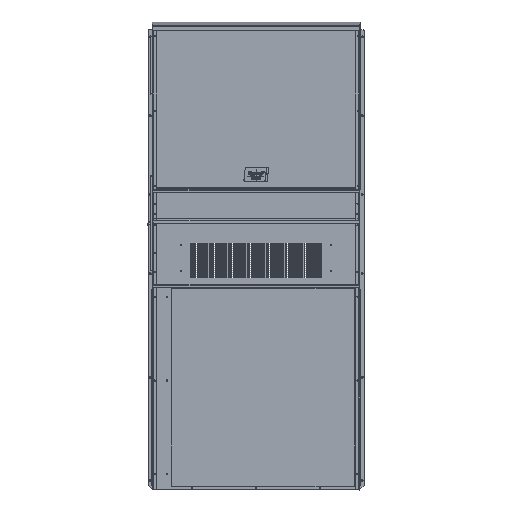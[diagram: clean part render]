
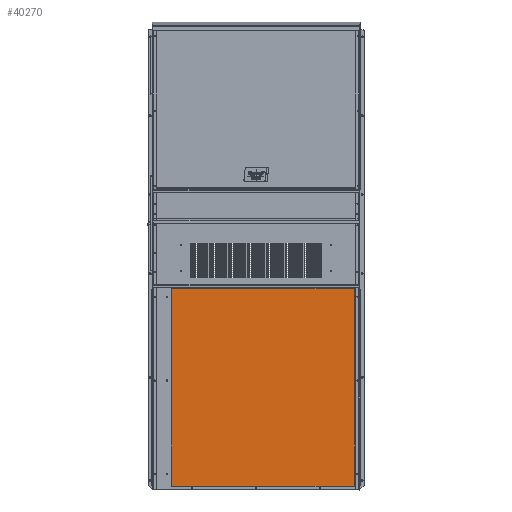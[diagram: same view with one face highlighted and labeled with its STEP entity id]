
A CAD part, top view. The second image highlights one B-rep face of the part: STEP entity #40270.
In plain terms, the highlighted planar face has unit normal (0, 0, 1).
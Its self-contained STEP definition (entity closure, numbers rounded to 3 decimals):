
#3091 = ORIENTED_EDGE ( 'NONE', *, *, #54223, .T. ) ;
#10067 = DIRECTION ( 'NONE',  ( 0., 0., -1. ) ) ;
#10626 = DIRECTION ( 'NONE',  ( 0., 1., 0. ) ) ;
#21725 = VERTEX_POINT ( 'NONE', #53325 ) ;
#25162 = AXIS2_PLACEMENT_3D ( 'NONE', #35400, #10067, #69634 ) ;
#26449 = CARTESIAN_POINT ( 'NONE',  ( 3.696, 40.075, 0.109 ) ) ;
#27026 = CARTESIAN_POINT ( 'NONE',  ( 40.769, 40.075, 0.109 ) ) ;
#30293 = VECTOR ( 'NONE', #10626, 39.37 ) ;
#30603 = ORIENTED_EDGE ( 'NONE', *, *, #79760, .T. ) ;
#31664 = ORIENTED_EDGE ( 'NONE', *, *, #93111, .T. ) ;
#35400 = CARTESIAN_POINT ( 'NONE',  ( -0.425, 40.631, 0.109 ) ) ;
#40270 = ADVANCED_FACE ( 'NONE', ( #91688 ), #61103, .F. ) ;
#45760 = DIRECTION ( 'NONE',  ( 1., 0., 0. ) ) ;
#47476 = LINE ( 'NONE', #97365, #92596 ) ;
#50455 = CARTESIAN_POINT ( 'NONE',  ( 3.696, 40.075, 0.109 ) ) ;
#52106 = CARTESIAN_POINT ( 'NONE',  ( 40.769, 40.075, 0.109 ) ) ;
#53325 = CARTESIAN_POINT ( 'NONE',  ( 3.696, -0.068, 0.109 ) ) ;
#54223 = EDGE_CURVE ( 'NONE', #84287, #95265, #47476, .T. ) ;
#55263 = DIRECTION ( 'NONE',  ( -1., 0., 0. ) ) ;
#59039 = DIRECTION ( 'NONE',  ( 0., -1., 0. ) ) ;
#61103 = PLANE ( 'NONE',  #25162 ) ;
#61111 = EDGE_LOOP ( 'NONE', ( #102130, #3091, #30603, #31664 ) ) ;
#65632 = EDGE_CURVE ( 'NONE', #84875, #84287, #75578, .T. ) ;
#67010 = VECTOR ( 'NONE', #45760, 39.37 ) ;
#69634 = DIRECTION ( 'NONE',  ( -1., 0., 0. ) ) ;
#69658 = LINE ( 'NONE', #104904, #67010 ) ;
#75578 = LINE ( 'NONE', #27026, #30293 ) ;
#79760 = EDGE_CURVE ( 'NONE', #95265, #21725, #108071, .T. ) ;
#84287 = VERTEX_POINT ( 'NONE', #52106 ) ;
#84875 = VERTEX_POINT ( 'NONE', #102588 ) ;
#85786 = VECTOR ( 'NONE', #59039, 39.37 ) ;
#91688 = FACE_OUTER_BOUND ( 'NONE', #61111, .T. ) ;
#92596 = VECTOR ( 'NONE', #55263, 39.37 ) ;
#93111 = EDGE_CURVE ( 'NONE', #21725, #84875, #69658, .T. ) ;
#95265 = VERTEX_POINT ( 'NONE', #26449 ) ;
#97365 = CARTESIAN_POINT ( 'NONE',  ( 3.696, 40.075, 0.109 ) ) ;
#102130 = ORIENTED_EDGE ( 'NONE', *, *, #65632, .T. ) ;
#102588 = CARTESIAN_POINT ( 'NONE',  ( 40.769, -0.068, 0.109 ) ) ;
#104904 = CARTESIAN_POINT ( 'NONE',  ( 3.696, -0.068, 0.109 ) ) ;
#108071 = LINE ( 'NONE', #50455, #85786 ) ;
